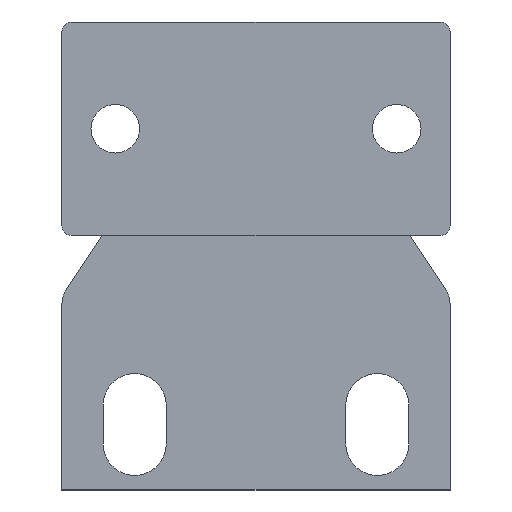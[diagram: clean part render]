
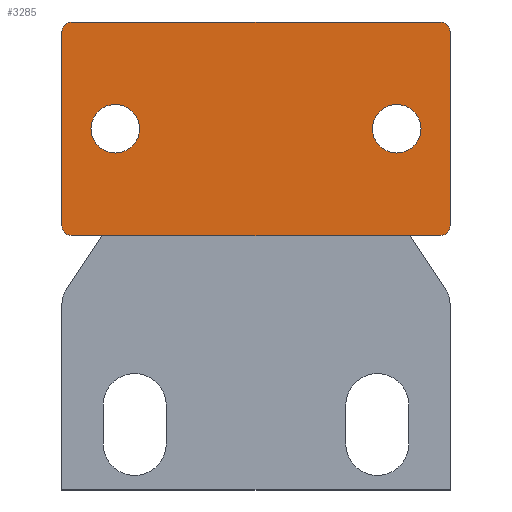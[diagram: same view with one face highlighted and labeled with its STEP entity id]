
A CAD part, top view. The second image highlights one B-rep face of the part: STEP entity #3285.
In plain terms, the highlighted planar face has unit normal (0, 0, 1).
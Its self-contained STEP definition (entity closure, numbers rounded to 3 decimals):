
#84 = CIRCLE ( 'NONE', #4602, 2.5 ) ;
#111 = VERTEX_POINT ( 'NONE', #695 ) ;
#167 = CARTESIAN_POINT ( 'NONE',  ( -12., 17.189, 14.5 ) ) ;
#231 = DIRECTION ( 'NONE',  ( 0., 0., 1. ) ) ;
#294 = EDGE_CURVE ( 'NONE', #6491, #4158, #2600, .T. ) ;
#347 = ORIENTED_EDGE ( 'NONE', *, *, #4821, .T. ) ;
#416 = EDGE_CURVE ( 'NONE', #5290, #1854, #4198, .T. ) ;
#545 = ORIENTED_EDGE ( 'NONE', *, *, #1892, .T. ) ;
#641 = CARTESIAN_POINT ( 'NONE',  ( -17., 17.189, 14.5 ) ) ;
#695 = CARTESIAN_POINT ( 'NONE',  ( -20., 7.189, 14.5 ) ) ;
#828 = CARTESIAN_POINT ( 'NONE',  ( -20., 27.189, 14.5 ) ) ;
#889 = DIRECTION ( 'NONE',  ( 1., 0., 0. ) ) ;
#1035 = CARTESIAN_POINT ( 'NONE',  ( 19., 28.189, 14.5 ) ) ;
#1153 = CIRCLE ( 'NONE', #3293, 1. ) ;
#1236 = EDGE_LOOP ( 'NONE', ( #6644, #4401 ) ) ;
#1289 = VERTEX_POINT ( 'NONE', #641 ) ;
#1322 = ORIENTED_EDGE ( 'NONE', *, *, #294, .T. ) ;
#1407 = EDGE_CURVE ( 'NONE', #5445, #1289, #84, .T. ) ;
#1459 = VERTEX_POINT ( 'NONE', #6638 ) ;
#1473 = DIRECTION ( 'NONE',  ( 1., 0., 0. ) ) ;
#1512 = DIRECTION ( 'NONE',  ( 1., 0., 0. ) ) ;
#1575 = CARTESIAN_POINT ( 'NONE',  ( -19., 7.189, 14.5 ) ) ;
#1576 = DIRECTION ( 'NONE',  ( 0., 0., 1. ) ) ;
#1742 = CIRCLE ( 'NONE', #4492, 1. ) ;
#1850 = VECTOR ( 'NONE', #2818, 1000. ) ;
#1854 = VERTEX_POINT ( 'NONE', #5600 ) ;
#1892 = EDGE_CURVE ( 'NONE', #6498, #5290, #5248, .T. ) ;
#1967 = EDGE_CURVE ( 'NONE', #1459, #6498, #4790, .T. ) ;
#2007 = EDGE_LOOP ( 'NONE', ( #347, #5984 ) ) ;
#2161 = DIRECTION ( 'NONE',  ( 0., 0., 1. ) ) ;
#2195 = DIRECTION ( 'NONE',  ( 0., 0., 1. ) ) ;
#2260 = CARTESIAN_POINT ( 'NONE',  ( -19., 27.189, 14.5 ) ) ;
#2296 = CARTESIAN_POINT ( 'NONE',  ( 20., 7.189, 14.5 ) ) ;
#2305 = DIRECTION ( 'NONE',  ( -1., 0., 0. ) ) ;
#2384 = CARTESIAN_POINT ( 'NONE',  ( 19., 6.189, 14.5 ) ) ;
#2426 = VERTEX_POINT ( 'NONE', #4855 ) ;
#2571 = ORIENTED_EDGE ( 'NONE', *, *, #1967, .T. ) ;
#2600 = CIRCLE ( 'NONE', #5801, 1. ) ;
#2614 = FACE_OUTER_BOUND ( 'NONE', #4780, .T. ) ;
#2651 = DIRECTION ( 'NONE',  ( 1., 0., 0. ) ) ;
#2676 = VECTOR ( 'NONE', #3390, 1000. ) ;
#2778 = DIRECTION ( 'NONE',  ( 1., 0., 0. ) ) ;
#2818 = DIRECTION ( 'NONE',  ( 0., 1., 0. ) ) ;
#2839 = CARTESIAN_POINT ( 'NONE',  ( 19., 7.189, 14.5 ) ) ;
#2873 = CARTESIAN_POINT ( 'NONE',  ( -14.5, 17.189, 14.5 ) ) ;
#2959 = FACE_BOUND ( 'NONE', #1236, .T. ) ;
#2986 = DIRECTION ( 'NONE',  ( 0., 0., -1. ) ) ;
#3249 = EDGE_CURVE ( 'NONE', #111, #1459, #1153, .T. ) ;
#3285 = ADVANCED_FACE ( 'NONE', ( #2614, #2959, #3652 ), #5536, .T. ) ;
#3293 = AXIS2_PLACEMENT_3D ( 'NONE', #1575, #231, #6212 ) ;
#3319 = DIRECTION ( 'NONE',  ( 0., 0., 1. ) ) ;
#3390 = DIRECTION ( 'NONE',  ( 1., 0., 0. ) ) ;
#3452 = DIRECTION ( 'NONE',  ( 0., 0., 1. ) ) ;
#3459 = ORIENTED_EDGE ( 'NONE', *, *, #4012, .T. ) ;
#3497 = CARTESIAN_POINT ( 'NONE',  ( 20., 28.189, 14.5 ) ) ;
#3509 = DIRECTION ( 'NONE',  ( 1., 0., 0. ) ) ;
#3571 = ORIENTED_EDGE ( 'NONE', *, *, #6094, .T. ) ;
#3652 = FACE_BOUND ( 'NONE', #2007, .T. ) ;
#3673 = CARTESIAN_POINT ( 'NONE',  ( 12., 17.189, 14.5 ) ) ;
#3694 = DIRECTION ( 'NONE',  ( 0., -1., 0. ) ) ;
#3777 = VERTEX_POINT ( 'NONE', #1035 ) ;
#3791 = ORIENTED_EDGE ( 'NONE', *, *, #416, .T. ) ;
#3919 = AXIS2_PLACEMENT_3D ( 'NONE', #5745, #5058, #4357 ) ;
#3941 = CIRCLE ( 'NONE', #5674, 2.5 ) ;
#3969 = AXIS2_PLACEMENT_3D ( 'NONE', #5756, #2986, #2305 ) ;
#3996 = AXIS2_PLACEMENT_3D ( 'NONE', #4153, #3452, #2778 ) ;
#4012 = EDGE_CURVE ( 'NONE', #4158, #111, #5088, .T. ) ;
#4018 = CARTESIAN_POINT ( 'NONE',  ( -14.5, 17.189, 14.5 ) ) ;
#4089 = CARTESIAN_POINT ( 'NONE',  ( -20., 6.189, 14.5 ) ) ;
#4098 = VECTOR ( 'NONE', #4164, 1000. ) ;
#4153 = CARTESIAN_POINT ( 'NONE',  ( 0., 17.189, 14.5 ) ) ;
#4158 = VERTEX_POINT ( 'NONE', #828 ) ;
#4164 = DIRECTION ( 'NONE',  ( -1., 0., 0. ) ) ;
#4194 = ORIENTED_EDGE ( 'NONE', *, *, #3249, .T. ) ;
#4198 = LINE ( 'NONE', #3497, #1850 ) ;
#4211 = DIRECTION ( 'NONE',  ( 0., 0., 1. ) ) ;
#4357 = DIRECTION ( 'NONE',  ( -1., 0., 0. ) ) ;
#4385 = CARTESIAN_POINT ( 'NONE',  ( -20., 28.189, 14.5 ) ) ;
#4401 = ORIENTED_EDGE ( 'NONE', *, *, #5434, .F. ) ;
#4446 = CIRCLE ( 'NONE', #3969, 2.5 ) ;
#4492 = AXIS2_PLACEMENT_3D ( 'NONE', #4906, #4211, #3509 ) ;
#4602 = AXIS2_PLACEMENT_3D ( 'NONE', #4018, #3319, #2651 ) ;
#4642 = ORIENTED_EDGE ( 'NONE', *, *, #5709, .T. ) ;
#4767 = VERTEX_POINT ( 'NONE', #3673 ) ;
#4780 = EDGE_LOOP ( 'NONE', ( #3459, #4194, #2571, #545, #3791, #4642, #3571, #1322 ) ) ;
#4790 = LINE ( 'NONE', #4089, #2676 ) ;
#4821 = EDGE_CURVE ( 'NONE', #2426, #4767, #4446, .T. ) ;
#4855 = CARTESIAN_POINT ( 'NONE',  ( 17., 17.189, 14.5 ) ) ;
#4865 = CARTESIAN_POINT ( 'NONE',  ( -20., 28.189, 14.5 ) ) ;
#4906 = CARTESIAN_POINT ( 'NONE',  ( 19., 27.189, 14.5 ) ) ;
#5058 = DIRECTION ( 'NONE',  ( 0., 0., -1. ) ) ;
#5088 = LINE ( 'NONE', #4385, #6142 ) ;
#5236 = EDGE_CURVE ( 'NONE', #4767, #2426, #5502, .T. ) ;
#5248 = CIRCLE ( 'NONE', #6028, 1. ) ;
#5290 = VERTEX_POINT ( 'NONE', #2296 ) ;
#5434 = EDGE_CURVE ( 'NONE', #1289, #5445, #3941, .T. ) ;
#5445 = VERTEX_POINT ( 'NONE', #167 ) ;
#5502 = CIRCLE ( 'NONE', #3919, 2.5 ) ;
#5536 = PLANE ( 'NONE',  #3996 ) ;
#5548 = LINE ( 'NONE', #4865, #4098 ) ;
#5600 = CARTESIAN_POINT ( 'NONE',  ( 20., 27.189, 14.5 ) ) ;
#5674 = AXIS2_PLACEMENT_3D ( 'NONE', #2873, #2195, #1512 ) ;
#5709 = EDGE_CURVE ( 'NONE', #1854, #3777, #1742, .T. ) ;
#5745 = CARTESIAN_POINT ( 'NONE',  ( 14.5, 17.189, 14.5 ) ) ;
#5756 = CARTESIAN_POINT ( 'NONE',  ( 14.5, 17.189, 14.5 ) ) ;
#5801 = AXIS2_PLACEMENT_3D ( 'NONE', #2260, #1576, #889 ) ;
#5828 = CARTESIAN_POINT ( 'NONE',  ( -19., 28.189, 14.5 ) ) ;
#5984 = ORIENTED_EDGE ( 'NONE', *, *, #5236, .T. ) ;
#6028 = AXIS2_PLACEMENT_3D ( 'NONE', #2839, #2161, #1473 ) ;
#6094 = EDGE_CURVE ( 'NONE', #3777, #6491, #5548, .T. ) ;
#6142 = VECTOR ( 'NONE', #3694, 1000. ) ;
#6212 = DIRECTION ( 'NONE',  ( 1., 0., 0. ) ) ;
#6491 = VERTEX_POINT ( 'NONE', #5828 ) ;
#6498 = VERTEX_POINT ( 'NONE', #2384 ) ;
#6638 = CARTESIAN_POINT ( 'NONE',  ( -19., 6.189, 14.5 ) ) ;
#6644 = ORIENTED_EDGE ( 'NONE', *, *, #1407, .F. ) ;
